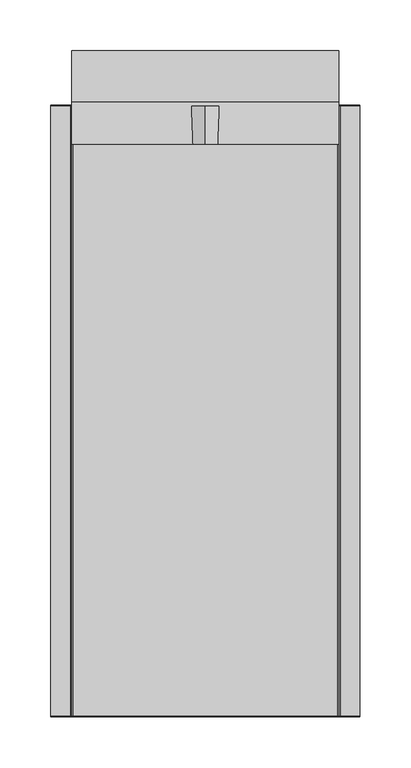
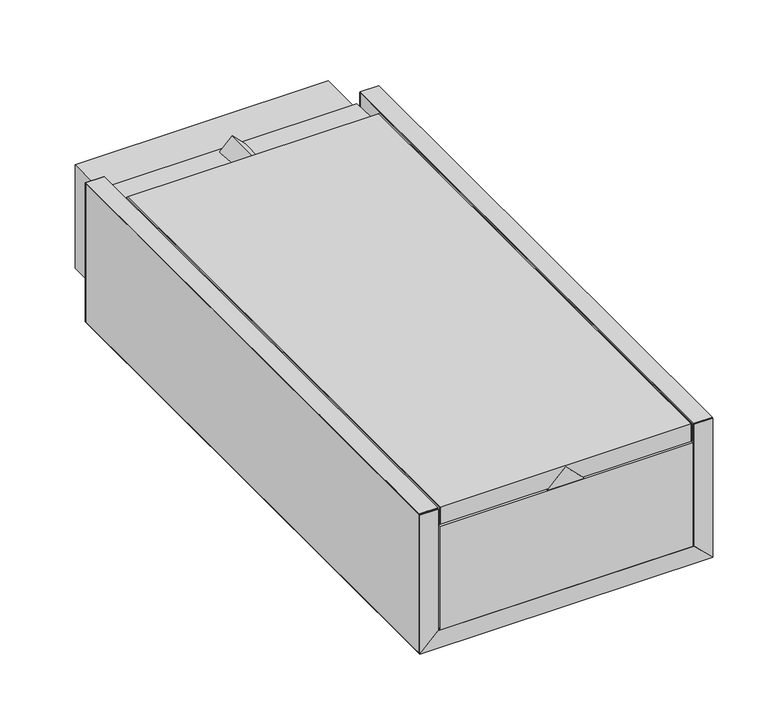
"""IFC4 building model written with IfcOpenShell, lengths in millimetres: proxy geometry, AERO^TABLE 4__AMC-611-V-122."""

import ifcopenshell
import ifcopenshell.guid

model = None  # the IFC model being written
_history = None  # IfcOwnerHistory: only IFC2X3 demands one
_inside = {}  # id of a spatial element -> (the spatial element, [elements in it])
_under = {}  # id of a project, library or spatial element -> (it, [spatial elements below it])
_declared = {}  # id of a project -> (the project, [libraries it declares])
_typed = {}  # id of a type object -> (the type object, [elements of that type])
_made_of = {}  # id of a material, layer set ... -> (it, [elements and type objects made of it])


def new_model(schema):
    """Start an empty IFC model of exactly this schema.

    Asked for "IFC4X3", IfcOpenShell would pick the latest addendum, in which some entities
    have other attributes; the version numbers below select the first issue.
    IFC2X3 requires an IfcOwnerHistory on every rooted entity: one is made here for all.
    """
    global model, _history
    if schema == "IFC4X3":
        model = ifcopenshell.file(schema_version=(4, 3, 0, 0))
    else:
        model = ifcopenshell.file(schema=schema)
    _inside.clear()
    _under.clear()
    _declared.clear()
    _typed.clear()
    _made_of.clear()
    _history = None
    if model.schema == "IFC2X3":
        org = make("IfcOrganization", Name="unknown")
        user = make(
            "IfcPersonAndOrganization",
            ThePerson=make("IfcPerson", FamilyName="unknown"),
            TheOrganization=org,
        )
        app = make(
            "IfcApplication",
            ApplicationDeveloper=org,
            Version="unknown",
            ApplicationFullName="unknown",
            ApplicationIdentifier="unknown",
        )
        _history = make(
            "IfcOwnerHistory",
            OwningUser=user,
            OwningApplication=app,
            ChangeAction="ADDED",
            CreationDate=0,
        )
    return model


def make(cls, **values):
    """One entity of the class cls with the attributes given. An attribute that is None is left unset."""
    return model.create_entity(
        cls, **{name: value for name, value in values.items() if value is not None}
    )


def rooted(cls, **values):
    """An entity with a GlobalId (a new one), such as an element, a storey or a relation."""
    return make(cls, GlobalId=ifcopenshell.guid.new(), OwnerHistory=_history, **values)


def si_unit(unit_type, name, prefix=None):
    """IfcSIUnit, for example si_unit("LENGTHUNIT", "METRE", prefix="MILLI")."""
    return make("IfcSIUnit", UnitType=unit_type, Prefix=prefix, Name=name)


def assignment(units):
    """IfcUnitAssignment: the units of a project."""
    return None if units is None else make("IfcUnitAssignment", Units=units)


def point(xyz):
    """IfcCartesianPoint."""
    return None if xyz is None else make("IfcCartesianPoint", Coordinates=xyz)


def direction(xyz):
    """IfcDirection."""
    return None if xyz is None else make("IfcDirection", DirectionRatios=xyz)


def frame(location, z_axis=None, x_axis=None):
    """IfcAxis2Placement3D, a coordinate frame: its origin and axes. An axis left out is left unset."""
    return make(
        "IfcAxis2Placement3D",
        Location=point(location),
        Axis=direction(z_axis),
        RefDirection=direction(x_axis),
    )


def frame_2d(location, x_axis=None):
    """IfcAxis2Placement2D, a coordinate frame in the plane: its origin and x axis."""
    return make(
        "IfcAxis2Placement2D", Location=point(location), RefDirection=direction(x_axis)
    )


def origin():
    """The frame at (0, 0, 0) with its axes left unset."""
    return frame((0.0, 0.0, 0.0))


def origin_with_axes():
    """The frame at (0, 0, 0) with the z axis (0, 0, 1) and the x axis (1, 0, 0) written out."""
    return frame((0.0, 0.0, 0.0), z_axis=(0.0, 0.0, 1.0), x_axis=(1.0, 0.0, 0.0))


def place(relative_to, where):
    """IfcLocalPlacement: puts the frame where relative to a parent placement (None: the world)."""
    return make(
        "IfcLocalPlacement", PlacementRelTo=relative_to, RelativePlacement=where
    )


def context(
    kind, dimensions, precision=None, world=None, true_north=None, identifier=None
):
    """IfcGeometricRepresentationContext, for example the 3D "Model" context."""
    return make(
        "IfcGeometricRepresentationContext",
        ContextIdentifier=identifier,
        ContextType=kind,
        CoordinateSpaceDimension=dimensions,
        Precision=precision,
        WorldCoordinateSystem=world,
        TrueNorth=true_north,
    )


def project(units=None, contexts=None):
    """IfcProject with its units and contexts."""
    return rooted(
        "IfcProject",
        Name="project",
        RepresentationContexts=contexts,
        UnitsInContext=assignment(units),
    )


def spatial(cls, under=None, at=None, **own):
    """A site, building, storey or space (cls), placed at a placement, below another one or the project."""
    s = rooted(cls, ObjectPlacement=at, **own)
    if under is not None:
        _under.setdefault(under.id(), (under, []))[1].append(s)
    return s


def polyline(points):
    """IfcPolyline through the points."""
    return make("IfcPolyline", Points=[point(p) for p in points])


def circle_curve(where, radius):
    """IfcCircle in the frame where."""
    return make("IfcCircle", Position=where, Radius=radius)


def trimmed(basis, trim1, trim2, sense, master):
    """IfcTrimmedCurve: the piece of a basis curve between two trims."""
    return make(
        "IfcTrimmedCurve",
        BasisCurve=basis,
        Trim1=trim1,
        Trim2=trim2,
        SenseAgreement=sense,
        MasterRepresentation=master,
    )


def segment(curve, same_sense, transition):
    """IfcCompositeCurveSegment."""
    return make(
        "IfcCompositeCurveSegment",
        Transition=transition,
        SameSense=same_sense,
        ParentCurve=curve,
    )


def composite_curve(segments, self_intersect=None):
    """IfcCompositeCurve: segments joined end to end."""
    return make("IfcCompositeCurve", Segments=segments, SelfIntersect=self_intersect)


def outline(outer, holes=None, kind="AREA"):
    """IfcArbitraryClosedProfileDef: a profile drawn as a closed curve; with holes, ...WithVoids."""
    if holes is None:
        return make("IfcArbitraryClosedProfileDef", ProfileType=kind, OuterCurve=outer)
    return make(
        "IfcArbitraryProfileDefWithVoids",
        ProfileType=kind,
        OuterCurve=outer,
        InnerCurves=holes,
    )


def extrude(swept, where, along, depth):
    """IfcExtrudedAreaSolid: the profile swept, set in the frame where, extruded along a direction by depth."""
    return make(
        "IfcExtrudedAreaSolid",
        SweptArea=swept,
        Position=where,
        ExtrudedDirection=direction(along),
        Depth=depth,
    )


def shape(context_of_items, identifier, shape_type, items):
    """IfcShapeRepresentation: the items that make up one representation, for example the "Body"."""
    return make(
        "IfcShapeRepresentation",
        ContextOfItems=context_of_items,
        RepresentationIdentifier=identifier,
        RepresentationType=shape_type,
        Items=items,
    )


def source(mapping_origin, context_of_items, identifier, shape_type, items):
    """IfcRepresentationMap: a shape defined once, which mapped items show again and again."""
    return make(
        "IfcRepresentationMap",
        MappingOrigin=mapping_origin,
        MappedRepresentation=shape(context_of_items, identifier, shape_type, items),
    )


def transform(
    local_origin,
    x_axis=None,
    y_axis=None,
    z_axis=None,
    scale=None,
    scale2=None,
    scale3=None,
    uniform=True,
):
    """IfcCartesianTransformationOperator3D, or its non-uniform kind. x_axis, y_axis, z_axis: its Axis1, 2, 3."""
    if uniform:
        return make(
            "IfcCartesianTransformationOperator3D",
            Axis1=direction(x_axis),
            Axis2=direction(y_axis),
            LocalOrigin=point(local_origin),
            Scale=scale,
            Axis3=direction(z_axis),
        )
    return make(
        "IfcCartesianTransformationOperator3DnonUniform",
        Axis1=direction(x_axis),
        Axis2=direction(y_axis),
        LocalOrigin=point(local_origin),
        Scale=scale,
        Axis3=direction(z_axis),
        Scale2=scale2,
        Scale3=scale3,
    )


def mapped(mapping_source, mapping_target):
    """IfcMappedItem: shows the shape of a source again, moved by a transform."""
    return make(
        "IfcMappedItem", MappingSource=mapping_source, MappingTarget=mapping_target
    )


def made_of(thing, what):
    """Note that an element or type object is made of a material, layer set ...; save() writes the relation."""
    if what is not None:
        _made_of.setdefault(what.id(), (what, []))[1].append(thing)
    return thing


def element(
    cls,
    number,
    at=None,
    inside=None,
    cuts=None,
    type_object=None,
    material=None,
    context=None,
    identifier="Body",
    shape_type=None,
    held_by="IfcProductDefinitionShape",
    body=None,
    shapes=None,
    **own,
):
    """One element of the class cls, such as IfcWall. Its Tag is "e" and its number.

    at: its placement. inside: the storey or other place that contains it. cuts: it is an
    opening in that element (IfcRelVoidsElement). A single representation is given by context,
    identifier, shape_type and body (its items); several are given by shapes. held_by: the class
    of the entity that holds the representations. save() writes the other relations.
    """
    e = rooted(cls, Tag="e%d" % number, ObjectPlacement=at, **own)
    if body is not None:
        shapes = [shape(context, identifier, shape_type, body)]
    if shapes is not None:
        e.Representation = make(held_by, Representations=shapes)
    if inside is not None:
        _inside.setdefault(inside.id(), (inside, []))[1].append(e)
    if cuts is not None:
        rooted(
            "IfcRelVoidsElement", RelatingBuildingElement=cuts, RelatedOpeningElement=e
        )
    if type_object is not None:
        _typed.setdefault(type_object.id(), (type_object, []))[1].append(e)
    return made_of(e, material)


def aggregate(whole, parts):
    """IfcRelAggregates: a whole, such as a stair, and the parts it consists of."""
    return rooted("IfcRelAggregates", RelatingObject=whole, RelatedObjects=parts)


def save(model, path):
    """Write the relations noted so far, then the file.

    IfcRelAggregates (storeys below a building ...), IfcRelContainedInSpatialStructure (elements
    in a storey), IfcRelDefinesByType, IfcRelAssociatesMaterial and IfcRelDeclares: one each for
    every whole, place, type object, material and project.
    """
    for whole, parts in _under.values():
        aggregate(whole, parts)
    for where, things in _inside.values():
        rooted(
            "IfcRelContainedInSpatialStructure",
            RelatedElements=things,
            RelatingStructure=where,
        )
    for kind, things in _typed.values():
        rooted("IfcRelDefinesByType", RelatedObjects=things, RelatingType=kind)
    for what, things in _made_of.values():
        rooted("IfcRelAssociatesMaterial", RelatedObjects=things, RelatingMaterial=what)
    for by, libraries in _declared.values():
        rooted("IfcRelDeclares", RelatingContext=by, RelatedDefinitions=libraries)
    model.write(path)


def generic_models_fe4cac86(model_context):
    return source(origin(), model_context, "Body", "SweptSolid", [
        extrude(outline(polyline([(0.0, -1.5875), (-19.05, -20.6375), (-19.05, 284.1625), (0.0, 265.1125), (0.0, -1.5875)])), frame((0.0, -5.9132375, 0.0), z_axis=(0.0, 1.0, 0.0), x_axis=(0.0, 0.0, 1.0)), (0.0, 0.0, 1.0), 0.889),
        extrude(outline(polyline([(0.0, -1.5875), (-19.05, -20.6375), (-19.05, 284.1625), (0.0, 265.1125), (0.0, -1.5875)])), frame((0.0, 596.4477625, 0.0), z_axis=(0.0, 1.0, 0.0), x_axis=(0.0, 0.0, 1.0)), (0.0, 0.0, 1.0), 0.889),
        extrude(outline(polyline([(-19.05, 284.1625), (133.35, 131.7625), (-19.05, -20.6375), (-19.05, 284.1625)])), frame((0.0, -5.0242375, 0.0), z_axis=(0.0, 1.0, 0.0), x_axis=(0.0, 0.0, 1.0)), (0.0, 0.0, 1.0), 601.472),
        extrude(outline(polyline([(-19.05, -20.6375), (0.0, -1.5875), (133.985, -1.5875), (133.985, -20.6375), (-19.05, -20.6375)])), frame((0.0, 596.4477625, 0.0), z_axis=(0.0, 1.0, 0.0), x_axis=(0.0, 0.0, 1.0)), (0.0, 0.0, 1.0), 0.889),
        extrude(outline(polyline([(-19.05, -20.6375), (0.0, -1.5875), (133.985, -1.5875), (133.985, -20.6375), (-19.05, -20.6375)])), frame((0.0, -5.9132375, 0.0), z_axis=(0.0, 1.0, 0.0), x_axis=(0.0, 0.0, 1.0)), (0.0, 0.0, 1.0), 0.889),
        extrude(outline(polyline([(-19.05, -20.6375), (0.0, -1.5875), (133.985, -1.5875), (133.985, -20.6375), (-19.05, -20.6375)])), frame((0.0, -5.0242375, 0.0), z_axis=(0.0, 1.0, 0.0), x_axis=(0.0, 0.0, 1.0)), (0.0, 0.0, 1.0), 601.472),
        extrude(outline(polyline([(-1.5875, 596.4477625), (-1.5875, -5.0242375), (-20.6375, -5.0242375), (-20.6375, 596.4477625), (-1.5875, 596.4477625)])), frame((0.0, 0.0, 133.985), z_axis=(0.0, 0.0, 1.0), x_axis=(1.0, 0.0, 0.0)), (0.0, 0.0, 1.0), 0.889),
        extrude(outline(polyline([(0.0, 265.1125), (-19.05, 284.1625), (133.985, 284.1625), (133.985, 265.1125), (0.0, 265.1125)])), frame((0.0, -5.9132375, 0.0), z_axis=(0.0, 1.0, 0.0), x_axis=(0.0, 0.0, 1.0)), (0.0, 0.0, 1.0), 0.889),
        extrude(outline(polyline([(0.0, 265.1125), (-19.05, 284.1625), (133.985, 284.1625), (133.985, 265.1125), (0.0, 265.1125)])), frame((0.0, 596.4477625, 0.0), z_axis=(0.0, 1.0, 0.0), x_axis=(0.0, 0.0, 1.0)), (0.0, 0.0, 1.0), 0.889),
        extrude(outline(polyline([(0.0, 265.1125), (-19.05, 284.1625), (133.985, 284.1625), (133.985, 265.1125), (0.0, 265.1125)])), frame((0.0, -5.0242375, 0.0), z_axis=(0.0, 1.0, 0.0), x_axis=(0.0, 0.0, 1.0)), (0.0, 0.0, 1.0), 601.472),
        extrude(outline(polyline([(265.1125, -5.0242375), (265.1125, 596.4477625), (284.1625, 596.4477625), (284.1625, -5.0242375), (265.1125, -5.0242375)])), frame((0.0, 0.0, 133.985), z_axis=(0.0, 0.0, 1.0), x_axis=(1.0, 0.0, 0.0)), (0.0, 0.0, 1.0), 0.889),
        extrude(outline(composite_curve([segment(polyline([(600.1835039, 117.6995994), (552.5932816, 119.552014), (552.6803072, 121.7877811), (600.2705295, 119.9353664)]), True, "CONTINUOUS"), segment(trimmed(circle_curve(frame_2d((598.271437, 118.8936024)), 2.25425), [point((600.2705295, 119.9353664))], [point((600.1835039, 117.6995994))], False, "CARTESIAN"), True, "CONTINUOUS")], self_intersect=False)), frame((0.0, 0.0, 0.0), z_axis=(1.0, 0.0, 0.0), x_axis=(0.0, 1.0, 0.0)), (0.0, 0.0, 1.0), 263.525),
        extrude(outline(polyline([(0.889, 558.3477625), (0.889, -5.0242375), (0.0, -5.0242375), (0.0, 558.3477625), (0.889, 558.3477625)])), frame((0.0, 0.0, 115.8875), z_axis=(0.0, 0.0, 1.0), x_axis=(1.0, 0.0, 0.0)), (0.0, 0.0, 1.0), 19.05),
        extrude(outline(polyline([(263.398, 558.3477625), (263.398, -5.0242375), (262.509, -5.0242375), (262.509, 558.3477625), (263.398, 558.3477625)])), frame((0.0, 0.0, 115.8875), z_axis=(0.0, 0.0, 1.0), x_axis=(1.0, 0.0, 0.0)), (0.0, 0.0, 1.0), 19.05),
        extrude(outline(polyline([(0.889, 558.3477625), (262.509, 558.3477625), (262.509, -5.0242375), (0.889, -5.0242375), (0.889, 558.3477625)])), frame((0.0, 0.0, 115.8875), z_axis=(0.0, 0.0, 1.0), x_axis=(1.0, 0.0, 0.0)), (0.0, 0.0, 1.0), 19.05),
        extrude(outline(polyline([(0.0, 651.3117625), (263.525, 651.3117625), (263.525, -5.9132375), (0.0, -5.9132375), (0.0, 651.3117625)])), origin_with_axes(), (0.0, 0.0, 1.0), 114.3),
    ])


if __name__ == "__main__":
    model = new_model("IFC4")
    model_context = context("Model", 3, world=origin())
    ifc_project = project(units=[si_unit("LENGTHUNIT", "METRE", prefix="MILLI")], contexts=[model_context])
    site = spatial("IfcSite", under=ifc_project)
    building = spatial("IfcBuilding", under=site)
    placement = place(None, origin())
    generic_models_shape = generic_models_fe4cac86(model_context)
    element("IfcBuildingElementProxy", 1, Name="AERO^TABLE 4__AMC-611-V-122", ObjectType="AERO^TABLE 4__AMC-611-V-122", at=placement, inside=building, context=model_context, shape_type="MappedRepresentation", body=[
        mapped(generic_models_shape, transform((0.0, 0.0, 0.0), x_axis=(1.0, 0.0, 0.0), y_axis=(0.0, 1.0, 0.0), z_axis=(0.0, 0.0, 1.0))),
    ])
    save(model, "model.ifc")
